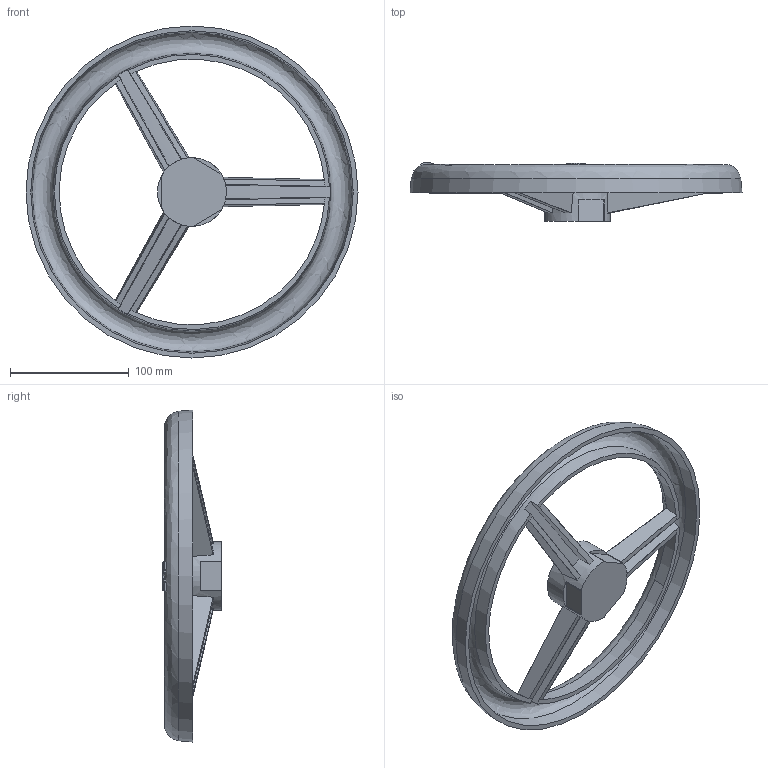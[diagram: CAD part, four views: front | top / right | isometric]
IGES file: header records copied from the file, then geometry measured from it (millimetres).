
Start section: SolidWorks IGES file using analytic representation for surfaces
Global section: file name: \\avksan2\techshare\PBM outline export from Enovia\O_08_66_DN200_AA0.igs; native system: SolidWorks 2012; preprocessor: SolidWorks 2012; author: pbm; date: 180717.125211; units: millimetre
Bounding box: 280 x 49.5 x 280 mm (x, y, z)
Surface area: 130495.2 mm2 (no closed solid volume)
Topology: 0 solids, 0 shells, 136 faces, 1098 edges, 1089 vertices
Faces by surface type: bspline 106, revolution 30
